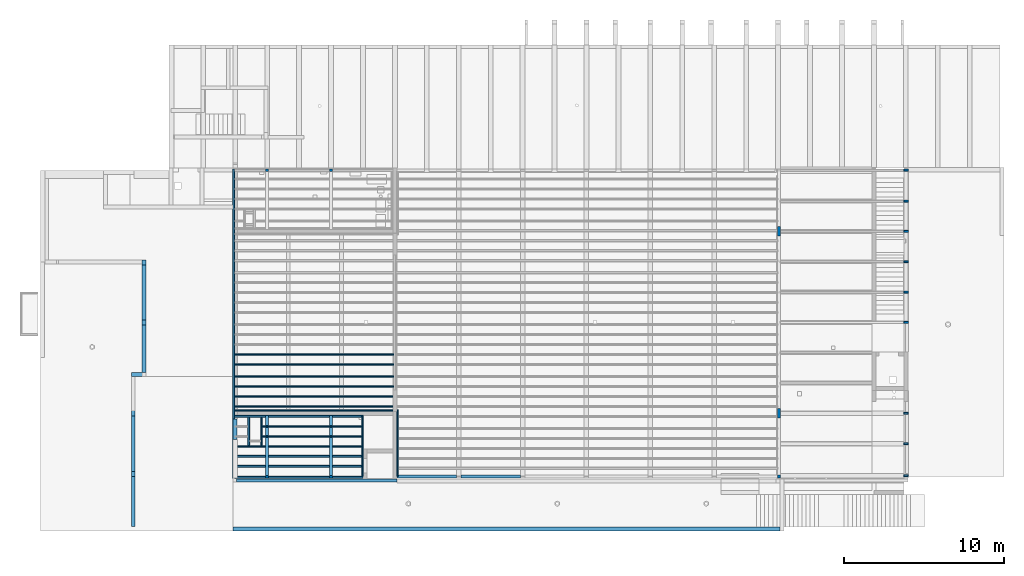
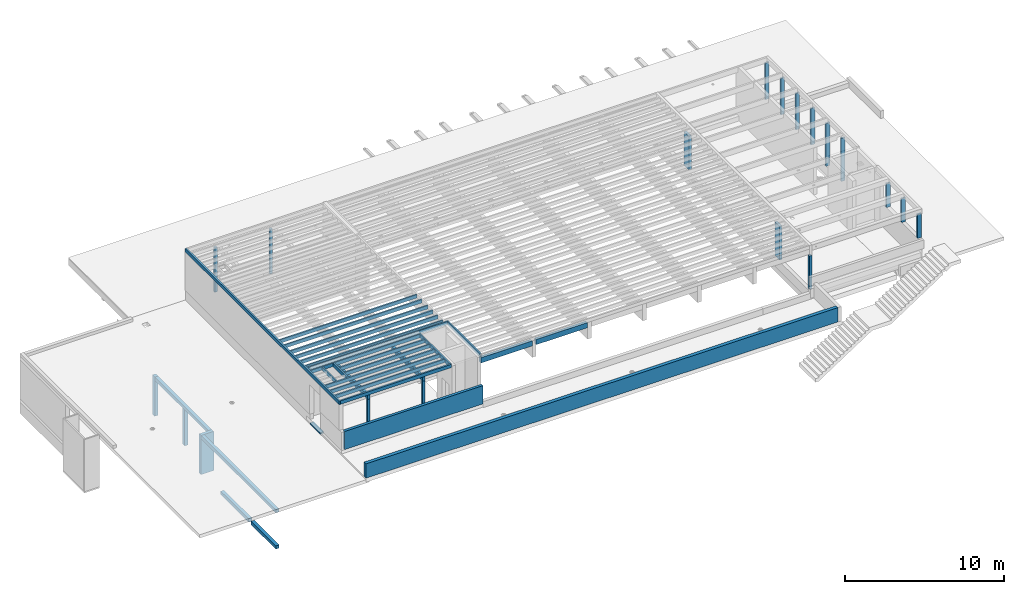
# One storey, part 1 of 14: 30 beams, 19 columns.
"""IFC2X3 building model written with IfcOpenShell, lengths in metres."""

from ifc_helpers import new_model, entity, si_unit, converted_unit, direction, frame, frame_2d, origin, origin_2d_with_axis, place, context, subcontext, project, spatial, rectangle, extrude, source, transform, mapped, material, type_object, type_shapes, element, save


model = new_model("IFC2X3")

# Units and contexts
model_context = context("Model", 3, precision=1e-05, world=frame((30.086303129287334, 2.687674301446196, 462.0)), true_north=direction((0.19008937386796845, 0.9817667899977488)))
body_context = subcontext(model_context, "Body", "Model", "MODEL_VIEW")
ifc_project = project(units=[si_unit("LENGTHUNIT", "METRE"), si_unit("AREAUNIT", "SQUARE_METRE"), converted_unit("PLANEANGLEUNIT", "DEGREE", entity("IfcPlaneAngleMeasure", 0.017453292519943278), si_unit("PLANEANGLEUNIT", "RADIAN"), dimensions=[0, 0, 0, 0, 0, 0, 0]), si_unit("VOLUMEUNIT", "CUBIC_METRE")], contexts=[model_context])

# Site, building, storey
site_placement = place(None, origin())
site = spatial("IfcSite", under=ifc_project, at=site_placement, Name="Default", CompositionType="ELEMENT")
building_placement = place(site_placement, origin())
building = spatial("IfcBuilding", under=site, at=building_placement, CompositionType="ELEMENT")
storey_placement = place(building_placement, origin())
storey = spatial("IfcBuildingStorey", under=building, at=storey_placement, Name="FB_E00_OKFB", CompositionType="ELEMENT", Elevation=0.0)

# Columns
ifc_material_1 = material(Name="WS_CONCRETE_REINFORCED")
column_type_1 = type_object("IfcColumnType", Name="WS_CCL_REC:CCL_REC_920x240", PredefinedType="COLUMN", material=ifc_material_1)
shared_shape_1 = source(origin(), body_context, "Body", "SweptSolid", [
    extrude(rectangle(XDim=0.9199999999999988, YDim=0.23999999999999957, at=frame_2d((-0.00016134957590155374, 1.0824674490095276e-15), x_axis=(1.0, 0.0))), frame((44.06114364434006, -14.104648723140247, 0.7799999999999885), z_axis=(0.0, 0.0, 1.0), x_axis=(-1.0, 0.0, 0.0)), (0.0, 0.0, 1.0), 3.005000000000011),
])
type_shapes(column_type_1, [shared_shape_1])
column_1_placement = place(storey_placement, origin())
element("IfcColumn", 1, at=column_1_placement, inside=storey, type_object=column_type_1, material=ifc_material_1, Name="WS_CCL_REC:CCL_REC_920x240", ObjectType="WS_CCL_REC:CCL_REC_920x240", context=body_context, shape_type="MappedRepresentation", body=[
    mapped(shared_shape_1, transform((0.0, 0.0, 0.0), scale=1.0)),
])
column_type_2 = type_object("IfcColumnType", Name="WS_CCL_REC:CCL_REC_240x300", PredefinedType="COLUMN", material=ifc_material_1)
shared_shape_2 = source(origin(), body_context, "Body", "SweptSolid", [
    extrude(rectangle(XDim=0.2399999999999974, YDim=0.29999999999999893, at=frame_2d((0.0, 1.0824674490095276e-15), x_axis=(1.0, 0.0))), frame((44.40033618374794, -10.834648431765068, 0.7799999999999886), z_axis=(0.0, 0.0, 1.0), x_axis=(-1.0, 0.0, 0.0)), (0.0, 0.0, 1.0), 2.7550000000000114),
])
type_shapes(column_type_2, [shared_shape_2])
column_2_placement = place(storey_placement, origin())
element("IfcColumn", 2, at=column_2_placement, inside=storey, type_object=column_type_2, material=ifc_material_1, Name="WS_CCL_REC:CCL_REC_240x300", ObjectType="WS_CCL_REC:CCL_REC_240x300", context=body_context, shape_type="MappedRepresentation", body=[
    mapped(shared_shape_2, transform((0.0, 0.0, 0.0), scale=1.0)),
])
column_type_3 = type_object("IfcColumnType", Name="WS_CCL_REC:CCL_REC_240x300", PredefinedType="COLUMN", material=ifc_material_1)
shared_shape_3 = source(origin(), body_context, "Body", "SweptSolid", [
    extrude(rectangle(XDim=0.23999999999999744, YDim=0.30000000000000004, at=frame_2d((0.0, -1.0824674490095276e-15), x_axis=(1.0, 0.0))), frame((44.4003373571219, -7.084653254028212, 0.7799999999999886)), (0.0, 0.0, 1.0), 3.005000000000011),
])
type_shapes(column_type_3, [shared_shape_3])
column_3_placement = place(storey_placement, origin())
element("IfcColumn", 3, at=column_3_placement, inside=storey, type_object=column_type_3, material=ifc_material_1, Name="WS_CCL_REC:CCL_REC_240x300", ObjectType="WS_CCL_REC:CCL_REC_240x300", context=body_context, shape_type="MappedRepresentation", body=[
    mapped(shared_shape_3, transform((0.0, 0.0, 0.0), scale=1.0)),
])
ifc_material_2 = material(Name="WS_TIMBER_GLT_0°")
column_type_4 = type_object("IfcColumnType", Name="WS_TCL_GLT:TCL_GLT_160x180", PredefinedType="COLUMN", material=ifc_material_2)
shared_shape_4 = source(origin(), body_context, "Body", "SweptSolid", [
    extrude(rectangle(XDim=0.1599999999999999, YDim=0.18000000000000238, at=frame_2d((1.3877787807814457e-16, 4.336808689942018e-15), x_axis=(1.0, 0.0))), frame((56.10533735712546, -1.3146022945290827, 4.035), z_axis=(0.0, 0.0, 1.0), x_axis=(0.0, -1.0, 0.0)), (0.0, 0.0, 1.0), 3.425),
])
type_shapes(column_type_4, [shared_shape_4])
column_4_placement = place(storey_placement, origin())
element("IfcColumn", 4, at=column_4_placement, inside=storey, type_object=column_type_4, material=ifc_material_2, Name="WS_TCL_GLT:TCL_GLT_160x180", ObjectType="WS_TCL_GLT:TCL_GLT_160x180", context=body_context, shape_type="MappedRepresentation", body=[
    mapped(shared_shape_4, transform((0.0, 0.0, 0.0), scale=1.0)),
])
column_type_5 = type_object("IfcColumnType", Name="WS_TCL_GLT:TCL_GLT_160x180", PredefinedType="COLUMN", material=ifc_material_2)
shared_shape_5 = source(origin(), body_context, "Body", "SweptSolid", [
    extrude(rectangle(XDim=0.15999999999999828, YDim=0.18000000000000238, at=frame_2d((0.0, -4.336808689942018e-15), x_axis=(1.0, 0.0))), frame((56.10533809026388, -20.50465196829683, 4.3999999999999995), z_axis=(0.0, 0.0, 1.0), x_axis=(0.0, -1.0, 0.0)), (0.0, 0.0, 1.0), 3.06),
])
type_shapes(column_type_5, [shared_shape_5])
column_5_placement = place(storey_placement, origin())
element("IfcColumn", 5, at=column_5_placement, inside=storey, type_object=column_type_5, material=ifc_material_2, Name="WS_TCL_GLT:TCL_GLT_160x180", ObjectType="WS_TCL_GLT:TCL_GLT_160x180", context=body_context, shape_type="MappedRepresentation", body=[
    mapped(shared_shape_5, transform((0.0, 0.0, 0.0), scale=1.0)),
])
column_type_6 = type_object("IfcColumnType", Name="WS_TCL_GLT:TCL_GLT_160x180", PredefinedType="COLUMN", material=ifc_material_2)
shared_shape_6 = source(origin(), body_context, "Body", "SweptSolid", [
    extrude(rectangle(XDim=0.1599999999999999, YDim=0.18000000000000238, at=frame_2d((1.3877787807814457e-16, 4.336808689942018e-15), x_axis=(1.0, 0.0))), frame((52.10533735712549, -1.3146022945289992, 4.035), z_axis=(0.0, 0.0, 1.0), x_axis=(0.0, -1.0, 0.0)), (0.0, 0.0, 1.0), 3.425),
])
type_shapes(column_type_6, [shared_shape_6])
column_6_placement = place(storey_placement, origin())
element("IfcColumn", 6, at=column_6_placement, inside=storey, type_object=column_type_6, material=ifc_material_2, Name="WS_TCL_GLT:TCL_GLT_160x180", ObjectType="WS_TCL_GLT:TCL_GLT_160x180", context=body_context, shape_type="MappedRepresentation", body=[
    mapped(shared_shape_6, transform((0.0, 0.0, 0.0), scale=1.0)),
])
column_type_7 = type_object("IfcColumnType", Name="WS_TCL_GLT:TCL_GLT_160x180", PredefinedType="COLUMN", material=ifc_material_2)
shared_shape_7 = source(origin(), body_context, "Body", "SweptSolid", [
    extrude(rectangle(XDim=0.15999999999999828, YDim=0.18000000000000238, at=origin_2d_with_axis()), frame((52.10533809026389, -20.50465196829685, 4.3999999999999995), z_axis=(0.0, 0.0, 1.0), x_axis=(0.0, -1.0, 0.0)), (0.0, 0.0, 1.0), 3.06),
])
type_shapes(column_type_7, [shared_shape_7])
column_7_placement = place(storey_placement, origin())
element("IfcColumn", 7, at=column_7_placement, inside=storey, type_object=column_type_7, material=ifc_material_2, Name="WS_TCL_GLT:TCL_GLT_160x180", ObjectType="WS_TCL_GLT:TCL_GLT_160x180", context=body_context, shape_type="MappedRepresentation", body=[
    mapped(shared_shape_7, transform((0.0, 0.0, 0.0), scale=1.0)),
])
column_type_8 = type_object("IfcColumnType", Name="WS_TCL_GLT:TCL_GLT_180x600", PredefinedType="COLUMN", material=ifc_material_2)
shared_shape_8 = source(origin(), body_context, "Body", "SweptSolid", [
    extrude(rectangle(XDim=0.17999999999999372, YDim=0.6000000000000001, at=frame_2d((0.0, 1.0824674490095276e-15), x_axis=(1.0, 0.0))), frame((84.16533919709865, -16.53464801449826, 4.654999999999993), z_axis=(0.0, 0.0, 1.0), x_axis=(-1.0, 0.0, 0.0)), (0.0, 0.0, 1.0), 2.5850000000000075),
])
type_shapes(column_type_8, [shared_shape_8])
column_8_placement = place(storey_placement, origin())
element("IfcColumn", 8, at=column_8_placement, inside=storey, type_object=column_type_8, material=ifc_material_2, Name="WS_TCL_GLT:TCL_GLT_180x600", ObjectType="WS_TCL_GLT:TCL_GLT_180x600", context=body_context, shape_type="MappedRepresentation", body=[
    mapped(shared_shape_8, transform((0.0, 0.0, 0.0), scale=1.0)),
])
column_type_9 = type_object("IfcColumnType", Name="WS_TCL_GLT:TCL_GLT_180x600", PredefinedType="COLUMN", material=ifc_material_2)
shared_shape_9 = source(origin(), body_context, "Body", "SweptSolid", [
    extrude(rectangle(XDim=0.17999999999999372, YDim=0.6000000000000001, at=origin_2d_with_axis()), frame((84.16533919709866, -5.134648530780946, 4.654999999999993), z_axis=(0.0, 0.0, 1.0), x_axis=(-1.0, 0.0, 0.0)), (0.0, 0.0, 1.0), 2.5850000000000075),
])
type_shapes(column_type_9, [shared_shape_9])
column_9_placement = place(storey_placement, origin())
element("IfcColumn", 9, at=column_9_placement, inside=storey, type_object=column_type_9, material=ifc_material_2, Name="WS_TCL_GLT:TCL_GLT_180x600", ObjectType="WS_TCL_GLT:TCL_GLT_180x600", context=body_context, shape_type="MappedRepresentation", body=[
    mapped(shared_shape_9, transform((0.0, 0.0, 0.0), scale=1.0)),
])
ifc_material_3 = material(Name="WS_TIMBER")
column_type_10 = type_object("IfcColumnType", Name="WS_TCL_KVH:TCL_LVL_120/280", PredefinedType="COLUMN", material=ifc_material_3)
shared_shape_10 = source(origin(), body_context, "Body", "SweptSolid", [
    extrude(rectangle(XDim=0.11999999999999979, YDim=0.28000000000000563, at=origin_2d_with_axis()), frame((92.12033733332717, -3.234647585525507, 4.799999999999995), z_axis=(0.0, 0.0, 1.0), x_axis=(0.0, 1.0, 0.0)), (0.0, 0.0, 1.0), 2.8050000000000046),
])
type_shapes(column_type_10, [shared_shape_10])
column_10_placement = place(storey_placement, origin())
element("IfcColumn", 10, at=column_10_placement, inside=storey, type_object=column_type_10, material=ifc_material_3, Name="WS_TCL_KVH:TCL_LVL_120/280", ObjectType="WS_TCL_KVH:TCL_LVL_120/280", context=body_context, shape_type="MappedRepresentation", body=[
    mapped(shared_shape_10, transform((0.0, 0.0, 0.0), scale=1.0)),
])
column_type_11 = type_object("IfcColumnType", Name="WS_TCL_KVH:TCL_LVL_120/280", PredefinedType="COLUMN", material=ifc_material_3)
shared_shape_11 = source(origin(), body_context, "Body", "SweptSolid", [
    extrude(rectangle(XDim=0.12000000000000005, YDim=0.28000000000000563, at=frame_2d((-1.3530843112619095e-16, 0.0), x_axis=(1.0, 0.0))), frame((92.12033733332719, -1.2946022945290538, 4.799999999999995), z_axis=(0.0, 0.0, 1.0), x_axis=(0.0, 1.0, 0.0)), (0.0, 0.0, 1.0), 2.8050000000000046),
])
type_shapes(column_type_11, [shared_shape_11])
column_11_placement = place(storey_placement, origin())
element("IfcColumn", 11, at=column_11_placement, inside=storey, type_object=column_type_11, material=ifc_material_3, Name="WS_TCL_KVH:TCL_LVL_120/280", ObjectType="WS_TCL_KVH:TCL_LVL_120/280", context=body_context, shape_type="MappedRepresentation", body=[
    mapped(shared_shape_11, transform((0.0, 0.0, 0.0), scale=1.0)),
])
column_type_12 = type_object("IfcColumnType", Name="WS_TCL_KVH:TCL_LVL_120/280", PredefinedType="COLUMN", material=ifc_material_3)
shared_shape_12 = source(origin(), body_context, "Body", "SweptSolid", [
    extrude(rectangle(XDim=0.11999999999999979, YDim=0.28000000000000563, at=origin_2d_with_axis()), frame((92.12033733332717, -5.134647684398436, 4.799999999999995), z_axis=(0.0, 0.0, 1.0), x_axis=(0.0, 1.0, 0.0)), (0.0, 0.0, 1.0), 2.8050000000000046),
])
type_shapes(column_type_12, [shared_shape_12])
column_12_placement = place(storey_placement, origin())
element("IfcColumn", 12, at=column_12_placement, inside=storey, type_object=column_type_12, material=ifc_material_3, Name="WS_TCL_KVH:TCL_LVL_120/280", ObjectType="WS_TCL_KVH:TCL_LVL_120/280", context=body_context, shape_type="MappedRepresentation", body=[
    mapped(shared_shape_12, transform((0.0, 0.0, 0.0), scale=1.0)),
])
column_type_13 = type_object("IfcColumnType", Name="WS_TCL_KVH:TCL_LVL_120/280", PredefinedType="COLUMN", material=ifc_material_3)
shared_shape_13 = source(origin(), body_context, "Body", "SweptSolid", [
    extrude(rectangle(XDim=0.11999999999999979, YDim=0.28000000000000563, at=origin_2d_with_axis()), frame((92.12033733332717, -7.0346475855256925, 4.799999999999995), z_axis=(0.0, 0.0, 1.0), x_axis=(0.0, 1.0, 0.0)), (0.0, 0.0, 1.0), 2.8050000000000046),
])
type_shapes(column_type_13, [shared_shape_13])
column_13_placement = place(storey_placement, origin())
element("IfcColumn", 13, at=column_13_placement, inside=storey, type_object=column_type_13, material=ifc_material_3, Name="WS_TCL_KVH:TCL_LVL_120/280", ObjectType="WS_TCL_KVH:TCL_LVL_120/280", context=body_context, shape_type="MappedRepresentation", body=[
    mapped(shared_shape_13, transform((0.0, 0.0, 0.0), scale=1.0)),
])
column_type_14 = type_object("IfcColumnType", Name="WS_TCL_KVH:TCL_LVL_120/280", PredefinedType="COLUMN", material=ifc_material_3)
shared_shape_14 = source(origin(), body_context, "Body", "SweptSolid", [
    extrude(rectangle(XDim=0.11999999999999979, YDim=0.28000000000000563, at=origin_2d_with_axis()), frame((92.12033733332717, -8.934647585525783, 4.309999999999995), z_axis=(0.0, 0.0, 1.0), x_axis=(0.0, 1.0, 0.0)), (0.0, 0.0, 1.0), 3.295000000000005),
])
type_shapes(column_type_14, [shared_shape_14])
column_14_placement = place(storey_placement, origin())
element("IfcColumn", 14, at=column_14_placement, inside=storey, type_object=column_type_14, material=ifc_material_3, Name="WS_TCL_KVH:TCL_LVL_120/280", ObjectType="WS_TCL_KVH:TCL_LVL_120/280", context=body_context, shape_type="MappedRepresentation", body=[
    mapped(shared_shape_14, transform((0.0, 0.0, 0.0), scale=1.0)),
])
column_type_15 = type_object("IfcColumnType", Name="WS_TCL_KVH:TCL_LVL_120/280", PredefinedType="COLUMN", material=ifc_material_3)
shared_shape_15 = source(origin(), body_context, "Body", "SweptSolid", [
    extrude(rectangle(XDim=0.12000000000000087, YDim=0.28000000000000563, at=frame_2d((1.0824674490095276e-15, 0.0), x_axis=(1.0, 0.0))), frame((92.12033733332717, -10.834647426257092, 4.309999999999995), z_axis=(0.0, 0.0, 1.0), x_axis=(0.0, 1.0, 0.0)), (0.0, 0.0, 1.0), 3.295000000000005),
])
type_shapes(column_type_15, [shared_shape_15])
column_15_placement = place(storey_placement, origin())
element("IfcColumn", 15, at=column_15_placement, inside=storey, type_object=column_type_15, material=ifc_material_3, Name="WS_TCL_KVH:TCL_LVL_120/280", ObjectType="WS_TCL_KVH:TCL_LVL_120/280", context=body_context, shape_type="MappedRepresentation", body=[
    mapped(shared_shape_15, transform((0.0, 0.0, 0.0), scale=1.0)),
])
column_type_16 = type_object("IfcColumnType", Name="WS_TCL_KVH:TCL_LVL_120/280", PredefinedType="COLUMN", material=ifc_material_3)
shared_shape_16 = source(origin(), body_context, "Body", "SweptSolid", [
    extrude(rectangle(XDim=0.12000000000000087, YDim=0.28000000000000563, at=frame_2d((1.0824674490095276e-15, 0.0), x_axis=(1.0, 0.0))), frame((92.12033733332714, -16.534647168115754, 5.769999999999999), z_axis=(0.0, 0.0, 1.0), x_axis=(0.0, 1.0, 0.0)), (0.0, 0.0, 1.0), 1.8350000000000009),
])
type_shapes(column_type_16, [shared_shape_16])
column_16_placement = place(storey_placement, origin())
element("IfcColumn", 16, at=column_16_placement, inside=storey, type_object=column_type_16, material=ifc_material_3, Name="WS_TCL_KVH:TCL_LVL_120/280", ObjectType="WS_TCL_KVH:TCL_LVL_120/280", context=body_context, shape_type="MappedRepresentation", body=[
    mapped(shared_shape_16, transform((0.0, 0.0, 0.0), scale=1.0)),
])
column_type_17 = type_object("IfcColumnType", Name="WS_TCL_KVH:TCL_LVL_120/280", PredefinedType="COLUMN", material=ifc_material_3)
shared_shape_17 = source(origin(), body_context, "Body", "SweptSolid", [
    extrude(rectangle(XDim=0.12000000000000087, YDim=0.28000000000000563, at=frame_2d((1.0824674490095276e-15, 0.0), x_axis=(1.0, 0.0))), frame((92.12033733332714, -18.434647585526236, 5.769999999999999), z_axis=(0.0, 0.0, 1.0), x_axis=(0.0, 1.0, 0.0)), (0.0, 0.0, 1.0), 1.8350000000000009),
])
type_shapes(column_type_17, [shared_shape_17])
column_17_placement = place(storey_placement, origin())
element("IfcColumn", 17, at=column_17_placement, inside=storey, type_object=column_type_17, material=ifc_material_3, Name="WS_TCL_KVH:TCL_LVL_120/280", ObjectType="WS_TCL_KVH:TCL_LVL_120/280", context=body_context, shape_type="MappedRepresentation", body=[
    mapped(shared_shape_17, transform((0.0, 0.0, 0.0), scale=1.0)),
])
column_type_18 = type_object("IfcColumnType", Name="WS_TCL_KVH:TCL_LVL_120/280", PredefinedType="COLUMN", material=ifc_material_3)
shared_shape_18 = source(origin(), body_context, "Body", "SweptSolid", [
    extrude(rectangle(XDim=0.1199999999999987, YDim=0.28000000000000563, at=origin_2d_with_axis()), frame((92.12033733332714, -20.444651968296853, 5.769999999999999), z_axis=(0.0, 0.0, 1.0), x_axis=(0.0, 1.0, 0.0)), (0.0, 0.0, 1.0), 1.8350000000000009),
])
type_shapes(column_type_18, [shared_shape_18])
column_18_placement = place(storey_placement, origin())
element("IfcColumn", 18, at=column_18_placement, inside=storey, type_object=column_type_18, material=ifc_material_3, Name="WS_TCL_KVH:TCL_LVL_120/280", ObjectType="WS_TCL_KVH:TCL_LVL_120/280", context=body_context, shape_type="MappedRepresentation", body=[
    mapped(shared_shape_18, transform((0.0, 0.0, 0.0), scale=1.0)),
])
column_type_19 = type_object("IfcColumnType", Name="WS_TCL_GLT:TCL_GLT_180x180", PredefinedType="COLUMN", material=ifc_material_2)
shared_shape_19 = source(origin(), body_context, "Body", "SweptSolid", [
    extrude(rectangle(XDim=0.17999999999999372, YDim=0.17999999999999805, at=frame_2d((0.0, -2.1718737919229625e-15), x_axis=(1.0, 0.0))), frame((84.16533735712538, -20.49465196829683, 4.654999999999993), z_axis=(0.0, 0.0, 1.0), x_axis=(-1.0, 0.0, 0.0)), (0.0, 0.0, 1.0), 2.5850000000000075),
])
type_shapes(column_type_19, [shared_shape_19])
column_19_placement = place(storey_placement, origin())
element("IfcColumn", 19, at=column_19_placement, inside=storey, type_object=column_type_19, material=ifc_material_2, Name="WS_TCL_GLT:TCL_GLT_180x180", ObjectType="WS_TCL_GLT:TCL_GLT_180x180", context=body_context, shape_type="MappedRepresentation", body=[
    mapped(shared_shape_19, transform((0.0, 0.0, 0.0), scale=1.0)),
])

# Beams
beam_type_1 = type_object("IfcBeamType", Name="WS_CBM_UPST_REC:CBM_UPST_REC_200x1950", PredefinedType="BEAM")
beam_1_placement = place(storey_placement, frame((60.105337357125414, -20.73955991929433, 3.849999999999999), z_axis=(0.0, 0.0, 1.0), x_axis=(-1.0, 0.0, 0.0)))
element("IfcBeam", 20, at=beam_1_placement, inside=storey, type_object=beam_type_1, material=ifc_material_1, Name="WS_CBM_UPST_REC:CBM_UPST_REC_200x1950", ObjectType="WS_CBM_UPST_REC:CBM_UPST_REC_200x1950", context=body_context, shape_type="SweptSolid", body=[
    extrude(rectangle(XDim=1.3999999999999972, YDim=0.20000000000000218, at=frame_2d((-2.7755575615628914e-16, -2.1649348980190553e-15), x_axis=(1.0, 0.0))), frame((-0.12499999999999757, 0.0, 1.2499999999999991), z_axis=(1.0, 0.0, 0.0), x_axis=(0.0, 0.0, -1.0)), (0.0, 0.0, 1.0), 10.029999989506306),
])
beam_type_2 = type_object("IfcBeamType", Name="WS_TBM_GLT:TBM_GLT_180/320", PredefinedType="BEAM")
beam_2_placement = place(storey_placement, frame((56.10533735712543, -16.534648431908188, 7.779999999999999), z_axis=(0.0, 0.0, 1.0), x_axis=(0.0, -1.0, 0.0)))
element("IfcBeam", 21, at=beam_2_placement, inside=storey, type_object=beam_type_2, material=ifc_material_2, Name="WS_TBM_GLT:TBM_GLT_180/320", ObjectType="WS_TBM_GLT:TBM_GLT_180/320", context=body_context, shape_type="SweptSolid", body=[
    extrude(rectangle(XDim=0.31999999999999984, YDim=0.18000000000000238, at=frame_2d((5.412337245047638e-16, 4.336808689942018e-15), x_axis=(1.0, 0.0))), frame((0.12499999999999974, 0.0, -0.15999999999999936), z_axis=(1.0, 0.0, 0.0), x_axis=(0.0, 0.0, -1.0)), (0.0, 0.0, 1.0), 3.925003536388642),
])
beam_3_placement = place(storey_placement, frame((52.10533735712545, -16.534648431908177, 7.779999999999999), z_axis=(0.0, 0.0, 1.0), x_axis=(0.0, -1.0, 0.0)))
element("IfcBeam", 22, at=beam_3_placement, inside=storey, type_object=beam_type_2, material=ifc_material_2, Name="WS_TBM_GLT:TBM_GLT_180/320", ObjectType="WS_TBM_GLT:TBM_GLT_180/320", context=body_context, shape_type="SweptSolid", body=[
    extrude(rectangle(XDim=0.31999999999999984, YDim=0.18000000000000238, at=frame_2d((5.412337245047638e-16, -4.336808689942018e-15), x_axis=(1.0, 0.0))), frame((0.12499999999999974, 0.0, -0.15999999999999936), z_axis=(1.0, 0.0, 0.0), x_axis=(0.0, 0.0, -1.0)), (0.0, 0.0, 1.0), 3.925003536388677),
])
beam_type_3 = type_object("IfcBeamType", Name="WS_TBM_KVH:TBM_KVH_100/260", PredefinedType="BEAM")
beam_4_placement = place(storey_placement, frame((58.07033741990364, -17.344648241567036, 8.04), z_axis=(0.0, 0.0, 1.0), x_axis=(-1.0, 0.0, 0.0)))
element("IfcBeam", 23, at=beam_4_placement, inside=storey, type_object=beam_type_3, material=ifc_material_3, Name="WS_TBM_KVH:TBM_KVH_100/260", ObjectType="WS_TBM_KVH:TBM_KVH_100/260", context=body_context, shape_type="SweptSolid", body=[
    extrude(rectangle(XDim=0.26000000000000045, YDim=0.09999999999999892, at=frame_2d((5.412337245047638e-16, 2.1659757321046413e-14), x_axis=(1.0, 0.0))), frame((0.05000000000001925, 0.0, -0.1299999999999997), z_axis=(1.0, 0.0, 0.0), x_axis=(0.0, 0.0, -1.0)), (0.0, 0.0, 1.0), 6.219130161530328),
])
beam_5_placement = place(storey_placement, frame((58.070337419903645, -17.969648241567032, 8.04), z_axis=(0.0, 0.0, 1.0), x_axis=(-1.0, 0.0, 0.0)))
element("IfcBeam", 24, at=beam_5_placement, inside=storey, type_object=beam_type_3, material=ifc_material_3, Name="WS_TBM_KVH:TBM_KVH_100/260", ObjectType="WS_TBM_KVH:TBM_KVH_100/260", context=body_context, shape_type="SweptSolid", body=[
    extrude(rectangle(XDim=0.26000000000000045, YDim=0.09999999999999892, at=frame_2d((5.412337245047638e-16, 1.9491352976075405e-14), x_axis=(1.0, 0.0))), frame((0.050000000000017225, 0.0, -0.1299999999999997), z_axis=(1.0, 0.0, 0.0), x_axis=(0.0, 0.0, -1.0)), (0.0, 0.0, 1.0), 6.2191301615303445),
])
beam_6_placement = place(storey_placement, frame((58.07033741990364, -18.594648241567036, 8.04), z_axis=(0.0, 0.0, 1.0), x_axis=(-1.0, 0.0, 0.0)))
element("IfcBeam", 25, at=beam_6_placement, inside=storey, type_object=beam_type_3, material=ifc_material_3, Name="WS_TBM_KVH:TBM_KVH_100/260", ObjectType="WS_TBM_KVH:TBM_KVH_100/260", context=body_context, shape_type="SweptSolid", body=[
    extrude(rectangle(XDim=0.26000000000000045, YDim=0.09999999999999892, at=frame_2d((5.412337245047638e-16, 2.5989627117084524e-14), x_axis=(1.0, 0.0))), frame((0.050000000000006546, 0.0, -0.1299999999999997), z_axis=(1.0, 0.0, 0.0), x_axis=(0.0, 0.0, -1.0)), (0.0, 0.0, 1.0), 7.9600001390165),
])
beam_7_placement = place(storey_placement, frame((58.24533741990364, -19.219648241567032, 8.04), z_axis=(0.0, 0.0, 1.0), x_axis=(-1.0, 0.0, 0.0)))
element("IfcBeam", 26, at=beam_7_placement, inside=storey, type_object=beam_type_3, material=ifc_material_3, Name="WS_TBM_KVH:TBM_KVH_100/260", ObjectType="WS_TBM_KVH:TBM_KVH_100/260", context=body_context, shape_type="SweptSolid", body=[
    extrude(rectangle(XDim=0.26000000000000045, YDim=0.09999999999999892, at=frame_2d((5.412337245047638e-16, 2.815456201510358e-14), x_axis=(1.0, 0.0))), frame((0.22500000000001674, 0.0, -0.1299999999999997), z_axis=(1.0, 0.0, 0.0), x_axis=(0.0, 0.0, -1.0)), (0.0, 0.0, 1.0), 7.960000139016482),
])
beam_8_placement = place(storey_placement, frame((58.24533741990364, -19.844648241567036, 8.04), z_axis=(0.0, 0.0, 1.0), x_axis=(-1.0, 0.0, 0.0)))
element("IfcBeam", 27, at=beam_8_placement, inside=storey, type_object=beam_type_3, material=ifc_material_3, Name="WS_TBM_KVH:TBM_KVH_100/260", ObjectType="WS_TBM_KVH:TBM_KVH_100/260", context=body_context, shape_type="SweptSolid", body=[
    extrude(rectangle(XDim=0.26000000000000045, YDim=0.10000000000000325, at=frame_2d((5.412337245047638e-16, 2.5989627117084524e-14), x_axis=(1.0, 0.0))), frame((0.22500000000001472, 0.0, -0.1299999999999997), z_axis=(1.0, 0.0, 0.0), x_axis=(0.0, 0.0, -1.0)), (0.0, 0.0, 1.0), 7.960000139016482),
])
beam_9_placement = place(storey_placement, frame((60.28081116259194, -16.3596484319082, 8.04), z_axis=(0.0, 0.0, 1.0), x_axis=(-1.0, 0.0, 0.0)))
element("IfcBeam", 28, at=beam_9_placement, inside=storey, type_object=beam_type_3, material=ifc_material_3, Name="WS_TBM_KVH:TBM_KVH_100/260", ObjectType="WS_TBM_KVH:TBM_KVH_100/260", context=body_context, shape_type="SweptSolid", body=[
    extrude(rectangle(XDim=0.26000000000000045, YDim=0.09999999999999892, at=frame_2d((5.412337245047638e-16, 3.248443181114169e-14), x_axis=(1.0, 0.0))), frame((-0.05000000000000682, 0.0, -0.1299999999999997), z_axis=(1.0, 0.0, 0.0), x_axis=(0.0, 0.0, -1.0)), (0.0, 0.0, 1.0), 10.270473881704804),
])
beam_10_placement = place(storey_placement, frame((58.07033741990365, -16.709648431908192, 8.04), z_axis=(0.0, 0.0, 1.0), x_axis=(-1.0, 0.0, 0.0)))
element("IfcBeam", 29, at=beam_10_placement, inside=storey, type_object=beam_type_3, material=ifc_material_3, Name="WS_TBM_KVH:TBM_KVH_100/260", ObjectType="WS_TBM_KVH:TBM_KVH_100/260", context=body_context, shape_type="SweptSolid", body=[
    extrude(rectangle(XDim=0.26000000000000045, YDim=0.09999999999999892, at=frame_2d((5.412337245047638e-16, 2.382469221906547e-14), x_axis=(1.0, 0.0))), frame((0.05000000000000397, 0.0, -0.1299999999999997), z_axis=(1.0, 0.0, 0.0), x_axis=(0.0, 0.0, -1.0)), (0.0, 0.0, 1.0), 7.9600001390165),
])
beam_11_placement = place(storey_placement, frame((58.07033741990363, -20.524651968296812, 8.04), z_axis=(0.0, 0.0, 1.0), x_axis=(0.0, 1.0, 0.0)))
element("IfcBeam", 30, at=beam_11_placement, inside=storey, type_object=beam_type_3, material=ifc_material_3, Name="WS_TBM_KVH:TBM_KVH_100/260", ObjectType="WS_TBM_KVH:TBM_KVH_100/260", context=body_context, shape_type="SweptSolid", body=[
    extrude(rectangle(XDim=0.26000000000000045, YDim=0.10000000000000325, at=frame_2d((5.412337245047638e-16, 0.0), x_axis=(1.0, 0.0))), frame((0.05999999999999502, 0.0, -0.1299999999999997), z_axis=(1.0, 0.0, 0.0), x_axis=(0.0, 0.0, -1.0)), (0.0, 0.0, 1.0), 3.805003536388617),
])
beam_12_placement = place(storey_placement, frame((60.28081116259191, -20.52465196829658, 8.04), z_axis=(0.0, 0.0, 1.0), x_axis=(0.0, 1.0, 0.0)))
element("IfcBeam", 31, at=beam_12_placement, inside=storey, type_object=beam_type_3, material=ifc_material_3, Name="WS_TBM_KVH:TBM_KVH_100/260", ObjectType="WS_TBM_KVH:TBM_KVH_100/260", context=body_context, shape_type="SweptSolid", body=[
    extrude(rectangle(XDim=0.26000000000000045, YDim=0.10000000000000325, at=frame_2d((5.412337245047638e-16, 0.0), x_axis=(1.0, 0.0))), frame((0.05999999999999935, 0.0, -0.1299999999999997), z_axis=(1.0, 0.0, 0.0), x_axis=(0.0, 0.0, -1.0)), (0.0, 0.0, 1.0), 4.055003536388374),
])
beam_13_placement = place(storey_placement, frame((60.105337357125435, -12.847106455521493, 8.04), z_axis=(0.0, 0.0, 1.0), x_axis=(-1.0, 0.0, 0.0)))
element("IfcBeam", 32, at=beam_13_placement, inside=storey, type_object=beam_type_3, material=ifc_material_3, Name="WS_TBM_KVH:TBM_KVH_100/260", ObjectType="WS_TBM_KVH:TBM_KVH_100/260", context=body_context, shape_type="SweptSolid", body=[
    extrude(rectangle(XDim=0.26000000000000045, YDim=0.09999999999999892, at=frame_2d((5.412337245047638e-16, 3.248443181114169e-14), x_axis=(1.0, 0.0))), frame((0.0599999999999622, 0.0, -0.1299999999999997), z_axis=(1.0, 0.0, 0.0), x_axis=(0.0, 0.0, -1.0)), (0.0, 0.0, 1.0), 9.98500007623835),
])
beam_14_placement = place(storey_placement, frame((60.105337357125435, -13.472106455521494, 8.04), z_axis=(0.0, 0.0, 1.0), x_axis=(-1.0, 0.0, 0.0)))
element("IfcBeam", 33, at=beam_14_placement, inside=storey, type_object=beam_type_3, material=ifc_material_3, Name="WS_TBM_KVH:TBM_KVH_100/260", ObjectType="WS_TBM_KVH:TBM_KVH_100/260", context=body_context, shape_type="SweptSolid", body=[
    extrude(rectangle(XDim=0.26000000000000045, YDim=0.09999999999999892, at=frame_2d((5.412337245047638e-16, 3.248443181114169e-14), x_axis=(1.0, 0.0))), frame((0.059999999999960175, 0.0, -0.1299999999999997), z_axis=(1.0, 0.0, 0.0), x_axis=(0.0, 0.0, -1.0)), (0.0, 0.0, 1.0), 9.98500007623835),
])
beam_15_placement = place(storey_placement, frame((60.10533735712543, -14.222106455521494, 8.04), z_axis=(0.0, 0.0, 1.0), x_axis=(-1.0, 0.0, 0.0)))
element("IfcBeam", 34, at=beam_15_placement, inside=storey, type_object=beam_type_3, material=ifc_material_3, Name="WS_TBM_KVH:TBM_KVH_100/260", ObjectType="WS_TBM_KVH:TBM_KVH_100/260", context=body_context, shape_type="SweptSolid", body=[
    extrude(rectangle(XDim=0.26000000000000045, YDim=0.09999999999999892, at=frame_2d((5.412337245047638e-16, 3.248443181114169e-14), x_axis=(1.0, 0.0))), frame((0.05999999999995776, 0.0, -0.1299999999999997), z_axis=(1.0, 0.0, 0.0), x_axis=(0.0, 0.0, -1.0)), (0.0, 0.0, 1.0), 9.98500007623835),
])
beam_16_placement = place(storey_placement, frame((60.10533735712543, -14.847106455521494, 8.04), z_axis=(0.0, 0.0, 1.0), x_axis=(-1.0, 0.0, 0.0)))
element("IfcBeam", 35, at=beam_16_placement, inside=storey, type_object=beam_type_3, material=ifc_material_3, Name="WS_TBM_KVH:TBM_KVH_100/260", ObjectType="WS_TBM_KVH:TBM_KVH_100/260", context=body_context, shape_type="SweptSolid", body=[
    extrude(rectangle(XDim=0.26000000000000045, YDim=0.09999999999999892, at=frame_2d((5.412337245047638e-16, 3.248443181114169e-14), x_axis=(1.0, 0.0))), frame((0.0599999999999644, 0.0, -0.1299999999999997), z_axis=(1.0, 0.0, 0.0), x_axis=(0.0, 0.0, -1.0)), (0.0, 0.0, 1.0), 9.98500007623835),
])
beam_17_placement = place(storey_placement, frame((60.10533735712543, -15.472106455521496, 8.04), z_axis=(0.0, 0.0, 1.0), x_axis=(-1.0, 0.0, 0.0)))
element("IfcBeam", 36, at=beam_17_placement, inside=storey, type_object=beam_type_3, material=ifc_material_3, Name="WS_TBM_KVH:TBM_KVH_100/260", ObjectType="WS_TBM_KVH:TBM_KVH_100/260", context=body_context, shape_type="SweptSolid", body=[
    extrude(rectangle(XDim=0.26000000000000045, YDim=0.09999999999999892, at=frame_2d((5.412337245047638e-16, 3.0319496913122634e-14), x_axis=(1.0, 0.0))), frame((0.059999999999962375, 0.0, -0.1299999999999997), z_axis=(1.0, 0.0, 0.0), x_axis=(0.0, 0.0, -1.0)), (0.0, 0.0, 1.0), 9.98500007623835),
])
beam_18_placement = place(storey_placement, frame((60.105337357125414, -16.097106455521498, 8.04), z_axis=(0.0, 0.0, 1.0), x_axis=(-1.0, 0.0, 0.0)))
element("IfcBeam", 37, at=beam_18_placement, inside=storey, type_object=beam_type_3, material=ifc_material_3, Name="WS_TBM_KVH:TBM_KVH_100/260", ObjectType="WS_TBM_KVH:TBM_KVH_100/260", context=body_context, shape_type="SweptSolid", body=[
    extrude(rectangle(XDim=0.26000000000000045, YDim=0.09999999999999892, at=frame_2d((5.412337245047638e-16, 3.248443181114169e-14), x_axis=(1.0, 0.0))), frame((0.05999999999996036, 0.0, -0.1299999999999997), z_axis=(1.0, 0.0, 0.0), x_axis=(0.0, 0.0, -1.0)), (0.0, 0.0, 1.0), 9.98500007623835),
])
for number, where, z_axis, x_axis in (
    (38, (50.95120725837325, -18.59464824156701, 8.04), (0.0, 0.0, 1.0), (0.0, 1.0, 0.0)),
    (39, (51.7512072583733, -18.59464824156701, 8.04), (0.0, 0.0, 1.0), (0.0, 1.0, 0.0)),
):
    element("IfcBeam", number, at=place(storey_placement, frame(where, z_axis=z_axis, x_axis=x_axis)), inside=storey, type_object=beam_type_3, material=ifc_material_3, Name="WS_TBM_KVH:TBM_KVH_100/260", ObjectType="WS_TBM_KVH:TBM_KVH_100/260", context=body_context, shape_type="SweptSolid", body=[
        extrude(rectangle(XDim=0.26000000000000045, YDim=0.10000000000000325, at=frame_2d((5.412337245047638e-16, 4.3298697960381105e-15), x_axis=(1.0, 0.0))), frame((0.04999999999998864, 0.0, -0.1299999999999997), z_axis=(1.0, 0.0, 0.0), x_axis=(0.0, 0.0, -1.0)), (0.0, 0.0, 1.0), 1.784999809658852),
    ])
beam_type_4 = type_object("IfcBeamType", Name="WS_TBM_GLT:TBM_GLT_200/400", PredefinedType="BEAM")
beam_19_placement = place(storey_placement, frame((64.10533919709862, -20.48465196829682, 7.779999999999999)))
element("IfcBeam", 40, at=beam_19_placement, inside=storey, type_object=beam_type_4, material=ifc_material_2, Name="WS_TBM_GLT:TBM_GLT_200/400", ObjectType="WS_TBM_GLT:TBM_GLT_200/400", context=body_context, shape_type="SweptSolid", body=[
    extrude(rectangle(XDim=0.4, YDim=0.20000000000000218, at=frame_2d((0.0, -2.165628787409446e-14), x_axis=(1.0, 0.0))), frame((0.1400000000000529, 0.0, -0.2), z_axis=(1.0, 0.0, 0.0), x_axis=(0.0, 0.0, -1.0)), (0.0, 0.0, 1.0), 3.719999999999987),
])
beam_20_placement = place(storey_placement, frame((60.10533735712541, -20.484651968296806, 7.779999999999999)))
element("IfcBeam", 41, at=beam_20_placement, inside=storey, type_object=beam_type_4, material=ifc_material_2, Name="WS_TBM_GLT:TBM_GLT_200/400", ObjectType="WS_TBM_GLT:TBM_GLT_200/400", context=body_context, shape_type="SweptSolid", body=[
    extrude(rectangle(XDim=0.4, YDim=0.20000000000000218, at=frame_2d((0.0, -2.598615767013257e-14), x_axis=(1.0, 0.0))), frame((0.1250000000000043, 0.0, -0.2), z_axis=(1.0, 0.0, 0.0), x_axis=(0.0, 0.0, -1.0)), (0.0, 0.0, 1.0), 3.7350018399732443),
])
beam_type_5 = type_object("IfcBeamType", Name="WS_TBM_KVH:TBM_KVH_120/260", PredefinedType="BEAM")
beam_21_placement = place(storey_placement, frame((58.24533741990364, -20.524651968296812, 8.04), z_axis=(0.0, 0.0, 1.0), x_axis=(-1.0, 0.0, 0.0)))
element("IfcBeam", 42, at=beam_21_placement, inside=storey, type_object=beam_type_5, material=ifc_material_3, Name="WS_TBM_KVH:TBM_KVH_120/260", ObjectType="WS_TBM_KVH:TBM_KVH_120/260", context=body_context, shape_type="SweptSolid", body=[
    extrude(rectangle(XDim=0.26000000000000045, YDim=0.12000000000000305, at=frame_2d((5.412337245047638e-16, 2.165628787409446e-14), x_axis=(1.0, 0.0))), frame((0.12500000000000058, 0.0, -0.1299999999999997), z_axis=(1.0, 0.0, 0.0), x_axis=(0.0, 0.0, -1.0)), (0.0, 0.0, 1.0), 8.060000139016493),
])
beam_22_placement = place(storey_placement, frame((50.010337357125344, -1.2946022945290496, 8.040000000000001), z_axis=(0.0, 0.0, 1.0), x_axis=(0.0, -1.0, 0.0)))
element("IfcBeam", 43, at=beam_22_placement, inside=storey, type_object=beam_type_5, material=ifc_material_3, Name="WS_TBM_KVH:TBM_KVH_120/260", ObjectType="WS_TBM_KVH:TBM_KVH_120/260", context=body_context, shape_type="SweptSolid", body=[
    extrude(rectangle(XDim=0.26000000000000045, YDim=0.12000000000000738, at=frame_2d((-5.412337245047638e-16, 0.0), x_axis=(1.0, 0.0))), frame((-0.05999999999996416, 0.0, -0.13000000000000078), z_axis=(1.0, 0.0, 0.0), x_axis=(0.0, 0.0, -1.0)), (0.0, 0.0, 1.0), 19.349995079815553),
])
beam_type_6 = type_object("IfcBeamType", Name="WS_CBM_REC:CBM_REC_240x500", PredefinedType="BEAM")
beam_23_placement = place(storey_placement, frame((44.400337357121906, -7.1596532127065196, 4.035), z_axis=(0.0, 0.0, 1.0), x_axis=(0.0, -1.0, 0.0)))
element("IfcBeam", 44, at=beam_23_placement, inside=storey, type_object=beam_type_6, material=ifc_material_1, Name="WS_CBM_REC:CBM_REC_240x500", ObjectType="WS_CBM_REC:CBM_REC_240x500", context=body_context, shape_type="SweptSolid", body=[
    extrude(rectangle(XDim=0.25000000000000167, YDim=0.24000000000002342, at=frame_2d((0.0, -1.2996548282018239e-14), x_axis=(1.0, 0.0))), frame((0.07500004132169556, 0.0, -0.37500000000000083), z_axis=(1.0, 0.0, 0.0), x_axis=(0.0, 0.0, -1.0)), (0.0, 0.0, 1.0), 6.749995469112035),
])
beam_24_placement = place(storey_placement, frame((43.72130499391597, -14.22464872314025, 4.035), z_axis=(0.0, 0.0, 1.0), x_axis=(0.0, -1.0, 0.0)))
element("IfcBeam", 45, at=beam_24_placement, inside=storey, type_object=beam_type_6, material=ifc_material_1, Name="WS_CBM_REC:CBM_REC_240x500", ObjectType="WS_CBM_REC:CBM_REC_240x500", context=body_context, shape_type="SweptSolid", body=[
    extrude(rectangle(XDim=0.25000000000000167, YDim=0.24000000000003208, at=frame_2d((0.0, -1.732641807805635e-14), x_axis=(1.0, 0.0))), frame((0.0, 0.0, -0.37500000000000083), z_axis=(1.0, 0.0, 0.0), x_axis=(0.0, 0.0, -1.0)), (0.0, 0.0, 1.0), 9.390006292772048),
])
beam_type_7 = type_object("IfcBeamType", Name="WS_CBM_UPST_REC:CBM_UPST_REC_250x615", PredefinedType="BEAM")
beam_25_placement = place(storey_placement, frame((50.105337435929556, -16.887008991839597, 3.7849999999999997), z_axis=(0.0, 0.0, 1.0), x_axis=(0.0, -1.0, 0.0)))
element("IfcBeam", 46, at=beam_25_placement, inside=storey, type_object=beam_type_7, material=ifc_material_1, Name="WS_CBM_UPST_REC:CBM_UPST_REC_250x615", ObjectType="WS_CBM_UPST_REC:CBM_UPST_REC_250x615", context=body_context, shape_type="SweptSolid", body=[
    extrude(rectangle(XDim=0.11499999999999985, YDim=0.25000000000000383, at=frame_2d((0.0, 4.336808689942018e-15), x_axis=(1.0, 0.0))), frame((0.0, 0.0, 0.30749999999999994), z_axis=(1.0, 0.0, 0.0), x_axis=(0.0, 0.0, -1.0)), (0.0, 0.0, 1.0), 1.2699999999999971),
])
beam_type_8 = type_object("IfcBeamType", Name="WS_CBM_UPST_REC:CBM_UPST_REC_250x1400", PredefinedType="BEAM")
beam_26_placement = place(storey_placement, frame((49.98033735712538, -23.789655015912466, 3.849999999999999)))
element("IfcBeam", 47, at=beam_26_placement, inside=storey, type_object=beam_type_8, material=ifc_material_1, Name="WS_CBM_UPST_REC:CBM_UPST_REC_250x1400", ObjectType="WS_CBM_UPST_REC:CBM_UPST_REC_250x1400", context=body_context, shape_type="SweptSolid", body=[
    extrude(rectangle(XDim=1.0999999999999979, YDim=0.25000000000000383, at=frame_2d((2.7755575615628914e-16, 1.0611650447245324e-13), x_axis=(1.0, 0.0))), frame((0.0, 0.0, 0.849999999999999), z_axis=(1.0, 0.0, 0.0), x_axis=(0.0, 0.0, -1.0)), (0.0, 0.0, 1.0), 34.25000137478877),
])
beam_type_9 = type_object("IfcBeamType", Name="WS_CBM_REC:CBM_REC_240x250", PredefinedType="BEAM")
beam_27_placement = place(storey_placement, frame((43.721304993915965, -16.67194801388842, 0.9299999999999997), z_axis=(0.0, 0.0, 1.0), x_axis=(0.0, -1.0, 0.0)))
element("IfcBeam", 48, at=beam_27_placement, inside=storey, type_object=beam_type_9, material=ifc_material_1, Name="WS_CBM_REC:CBM_REC_240x250", ObjectType="WS_CBM_REC:CBM_REC_240x250", context=body_context, shape_type="SweptSolid", body=[
    extrude(rectangle(XDim=0.2499999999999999, YDim=0.2400000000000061, at=frame_2d((-6.245004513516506e-17, 4.336808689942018e-15), x_axis=(1.0, 0.0))), frame((0.012700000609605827, 0.0, -0.045000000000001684), z_axis=(1.0, 0.0, 0.0), x_axis=(0.0, 0.0, -1.0)), (0.0, 0.0, 1.0), 3.500000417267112),
])
beam_28_placement = place(storey_placement, frame((43.72130499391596, -20.471948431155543, 0.9299999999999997), z_axis=(0.0, 0.0, 1.0), x_axis=(0.0, -1.0, 0.0)))
element("IfcBeam", 49, at=beam_28_placement, inside=storey, type_object=beam_type_9, material=ifc_material_1, Name="WS_CBM_REC:CBM_REC_240x250", ObjectType="WS_CBM_REC:CBM_REC_240x250", context=body_context, shape_type="SweptSolid", body=[
    extrude(rectangle(XDim=0.2499999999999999, YDim=0.2400000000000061, at=frame_2d((-6.245004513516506e-17, 4.336808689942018e-15), x_axis=(1.0, 0.0))), frame((0.012700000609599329, 0.0, -0.045000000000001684), z_axis=(1.0, 0.0, 0.0), x_axis=(0.0, 0.0, -1.0)), (0.0, 0.0, 1.0), 3.130006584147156),
])

save(model, "model.ifc")
